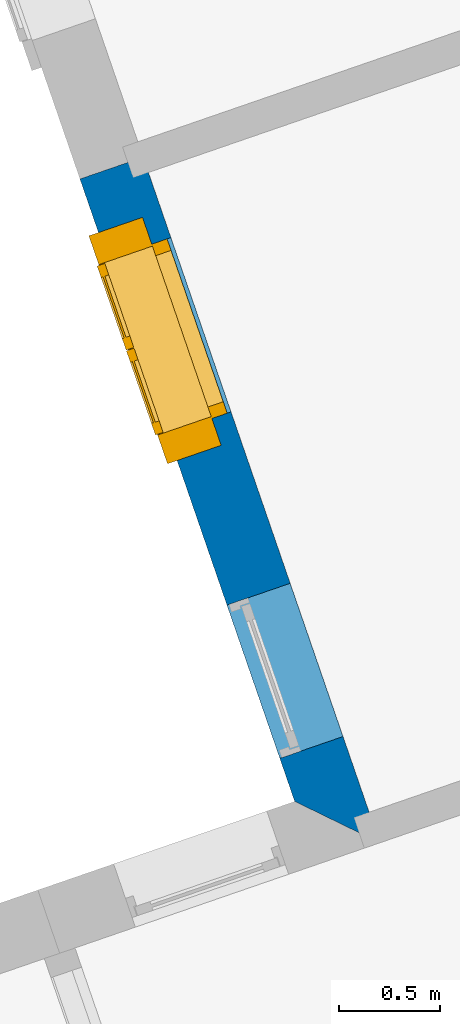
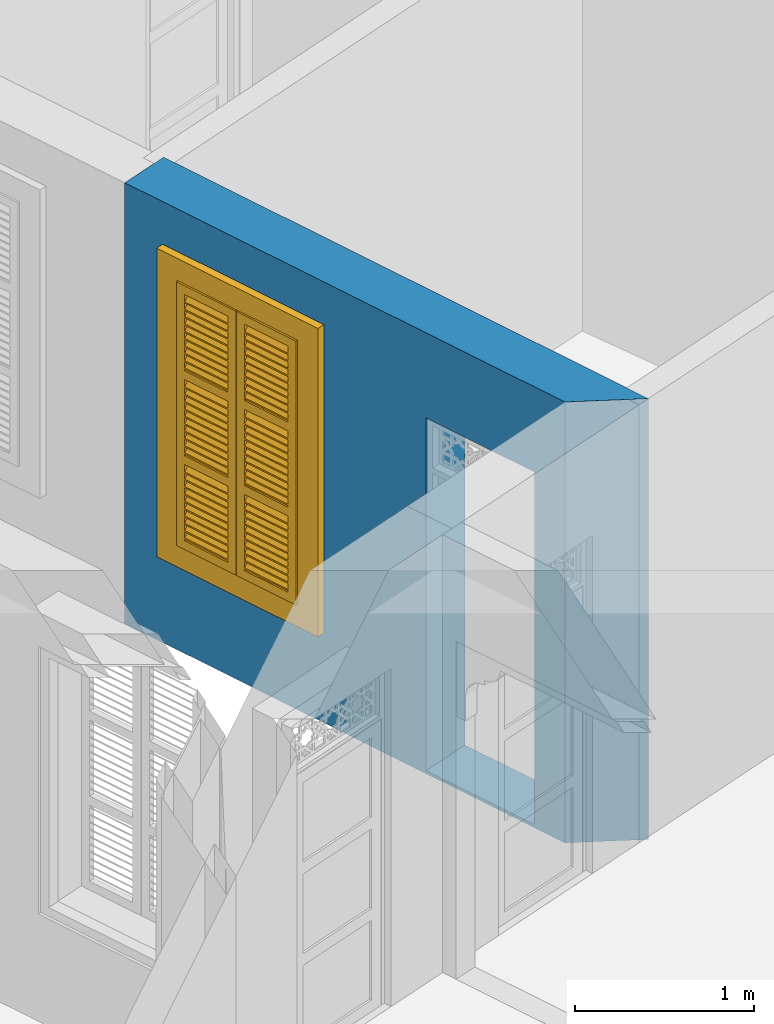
# One storey, part 9 of 16: 1 wall, 1 window, 2 openings.
"""IFC4 building model written with IfcOpenShell, lengths in metres."""

from ifc_helpers import new_model, si_unit, frame, origin, origin_with_axes, place, context, subcontext, project, spatial, polyline, outline, extrude, faceted_brep, source, transform, mapped, material, layer, layer_set, layer_usage, type_object, type_shapes, element, fill, save


model = new_model("IFC4")

# Units and contexts
model_context = context("Model", 3, world=origin_with_axes())
body_context = subcontext(model_context, "Body", "Model", "MODEL_VIEW")
ifc_project = project(units=[si_unit("PLANEANGLEUNIT", "RADIAN"), si_unit("MASSUNIT", "GRAM", prefix="KILO"), si_unit("FORCEUNIT", "NEWTON", prefix="KILO"), si_unit("LENGTHUNIT", "METRE"), si_unit("AREAUNIT", "SQUARE_METRE"), si_unit("VOLUMEUNIT", "CUBIC_METRE")], contexts=[model_context, model_context])

# Site, building, storey
site_placement = place(None, origin_with_axes())
site = spatial("IfcSite", under=ifc_project, at=site_placement, Name="Site plot-8", CompositionType="ELEMENT")
building_placement = place(None, origin_with_axes())
building = spatial("IfcBuilding", under=site, at=building_placement, Name="Building plot-8", CompositionType="ELEMENT")
storey_placement = place(None, origin_with_axes())
storey = spatial("IfcBuildingStorey", under=building, at=storey_placement, Name="plot-8 0", CompositionType="ELEMENT", Elevation=0.0)

# Wall, openings, window
ifc_material = material(Name="Masonry")
ifc_layer = layer(ifc_material, 0.33, ventilated=False)
ifc_layer_set = layer_set([ifc_layer], Name="exterior_0.08_0.25")
ifc_layer_usage = layer_usage(ifc_layer_set, "AXIS2", "POSITIVE", -0.25)
wall_type = type_object("IfcWallType", Name="exterior_0.08_0.25", PredefinedType="SOLIDWALL", material=ifc_layer_set)
wall_placement = place(storey_placement, frame((-7.59485099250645, 19.4551740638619, 0.0), z_axis=(0.0, 0.0, 1.0), x_axis=(0.32611221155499, -0.945331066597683, 0.0)))
wall = element("IfcWall", 1, at=wall_placement, inside=storey, type_object=wall_type, material=ifc_layer_usage, Name="exterior", context=body_context, shape_type="SweptSolid", body=[
    extrude(outline(polyline([(2.18061407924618e-16, 0.0799999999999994), (2.61861100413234e-15, -0.25), (3.24982733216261, -0.25), (3.57982733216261, 0.0800000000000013), (2.18061407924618e-16, 0.0799999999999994)])), origin_with_axes(), (0.0, 0.0, 1.0), 3.0),
])
opening_1_placement = place(wall_placement, frame((0.41995683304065, 0.0, 0.75)))
opening_1 = element("IfcOpeningElement", 2, at=opening_1_placement, cuts=wall, Name="My Opening", ObjectType="Opening", context=body_context, shape_type="SweptSolid", body=[
    extrude(outline(polyline([(0.0, -0.27), (0.909999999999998, -0.269999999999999), (0.910000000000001, 1.1), (3.49720252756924e-15, 1.1), (0.0, -0.27)])), origin_with_axes(), (0.0, 0.0, 1.0), 1.82),
])
opening_2_placement = place(wall_placement, frame((2.22487049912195, 0.0, 0.02)))
element("IfcOpeningElement", 3, at=opening_2_placement, cuts=wall, Name="My Opening", ObjectType="Opening", context=body_context, shape_type="SweptSolid", body=[
    extrude(outline(polyline([(0.0, -0.27), (0.8, -0.27), (0.800000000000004, 1.1), (3.5527136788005e-15, 1.1), (0.0, -0.27)])), origin_with_axes(), (0.0, 0.0, 1.0), 2.4),
])
window_type = type_object("IfcWindowType", Name="shuttered_big", PartitioningType="DOUBLE_PANEL_HORIZONTAL", PredefinedType="NOTDEFINED")
shared_shape = source(origin(), body_context, "Body", "Brep", [
    faceted_brep([(0.074, 0.0, 0.810667), (0.393, 0.0, 0.810667), (0.393, 0.0, 0.800667), (0.074, 0.0, 0.800667), (0.074, -0.04, 0.770667), (0.393, -0.04, 0.770667), (0.393, -0.04, 0.760667), (0.074, -0.04, 0.760667), (0.517, 0.0, 0.232), (0.836, 0.0, 0.232), (0.836, 0.0, 0.222), (0.517, 0.0, 0.222), (0.517, -0.04, 0.192), (0.836, -0.04, 0.192), (0.836, -0.04, 0.182), (0.517, -0.04, 0.182), (0.517, 0.0, 0.532), (0.836, 0.0, 0.532), (0.836, 0.0, 0.522), (0.517, 0.0, 0.522), (0.517, -0.04, 0.492), (0.836, -0.04, 0.492), (0.836, -0.04, 0.482), (0.517, -0.04, 0.482), (0.517, 0.0, 0.482), (0.836, 0.0, 0.482), (0.836, 0.0, 0.472), (0.517, 0.0, 0.472), (0.517, -0.04, 0.442), (0.836, -0.04, 0.442), (0.836, -0.04, 0.432), (0.517, -0.04, 0.432), (0.517, 0.0, 0.582), (0.836, 0.0, 0.582), (0.836, 0.0, 0.572), (0.517, 0.0, 0.572), (0.517, -0.04, 0.542), (0.836, -0.04, 0.542), (0.836, -0.04, 0.532), (0.517, -0.04, 0.532), (0.517, 0.0, 0.182), (0.836, 0.0, 0.182), (0.836, 0.0, 0.172), (0.517, 0.0, 0.172), (0.517, -0.04, 0.142), (0.836, -0.04, 0.142), (0.836, -0.04, 0.132), (0.517, -0.04, 0.132), (0.517, 0.0, 0.382), (0.836, 0.0, 0.382), (0.836, 0.0, 0.372), (0.517, 0.0, 0.372), (0.517, -0.04, 0.342), (0.836, -0.04, 0.342), (0.836, -0.04, 0.332), (0.517, -0.04, 0.332), (0.517, 0.0, 0.432), (0.836, 0.0, 0.432), (0.836, 0.0, 0.422), (0.517, 0.0, 0.422), (0.517, -0.04, 0.392), (0.836, -0.04, 0.392), (0.836, -0.04, 0.382), (0.517, -0.04, 0.382), (0.517, 0.0, 0.132), (0.836, 0.0, 0.132), (0.836, 0.0, 0.122), (0.517, 0.0, 0.122), (0.517, -0.04, 0.092), (0.836, -0.04, 0.092), (0.836, -0.04, 0.082), (0.517, -0.04, 0.082), (0.517, 0.0, 0.282), (0.836, 0.0, 0.282), (0.836, 0.0, 0.272), (0.517, 0.0, 0.272), (0.517, -0.04, 0.242), (0.836, -0.04, 0.242), (0.836, -0.04, 0.232), (0.517, -0.04, 0.232), (0.517, 0.0, 0.332), (0.836, 0.0, 0.332), (0.836, 0.0, 0.322), (0.517, 0.0, 0.322), (0.517, -0.04, 0.292), (0.836, -0.04, 0.292), (0.836, -0.04, 0.282), (0.517, -0.04, 0.282), (0.517, 0.0, 0.810667), (0.836, 0.0, 0.810667), (0.836, 0.0, 0.800667), (0.517, 0.0, 0.800667), (0.517, -0.04, 0.770667), (0.836, -0.04, 0.770667), (0.836, -0.04, 0.760667), (0.517, -0.04, 0.760667), (0.517, 0.0, 1.110667), (0.836, 0.0, 1.110667), (0.836, 0.0, 1.100667), (0.517, 0.0, 1.100667), (0.517, -0.04, 1.070667), (0.836, -0.04, 1.070667), (0.836, -0.04, 1.060667), (0.517, -0.04, 1.060667), (0.517, 0.0, 1.060667), (0.836, 0.0, 1.060667), (0.836, 0.0, 1.050667), (0.517, 0.0, 1.050667), (0.517, -0.04, 1.020667), (0.836, -0.04, 1.020667), (0.836, -0.04, 1.010667), (0.517, -0.04, 1.010667), (0.517, 0.0, 1.160667), (0.836, 0.0, 1.160667), (0.836, 0.0, 1.150667), (0.517, 0.0, 1.150667), (0.517, -0.04, 1.120667), (0.836, -0.04, 1.120667), (0.836, -0.04, 1.110667), (0.517, -0.04, 1.110667), (0.517, 0.0, 0.760667), (0.836, 0.0, 0.760667), (0.836, 0.0, 0.750667), (0.517, 0.0, 0.750667), (0.517, -0.04, 0.720667), (0.836, -0.04, 0.720667), (0.836, -0.04, 0.710667), (0.517, -0.04, 0.710667), (0.517, 0.0, 0.960667), (0.836, 0.0, 0.960667), (0.836, 0.0, 0.950667), (0.517, 0.0, 0.950667), (0.517, -0.04, 0.920667), (0.836, -0.04, 0.920667), (0.836, -0.04, 0.910667), (0.517, -0.04, 0.910667), (0.517, 0.0, 1.010667), (0.836, 0.0, 1.010667), (0.836, 0.0, 1.0), (0.517, 0.0, 1.0), (0.517, -0.04, 0.970667), (0.836, -0.04, 0.970667), (0.836, -0.04, 0.960667), (0.517, -0.04, 0.960667), (0.517, 0.0, 0.710667), (0.836, 0.0, 0.710667), (0.836, 0.0, 0.700667), (0.517, 0.0, 0.700667), (0.517, -0.04, 0.670667), (0.836, -0.04, 0.670667), (0.836, -0.04, 0.660667), (0.517, -0.04, 0.660667), (0.517, 0.0, 0.860667), (0.836, 0.0, 0.860667), (0.836, 0.0, 0.850667), (0.517, 0.0, 0.850667), (0.517, -0.04, 0.820667), (0.836, -0.04, 0.820667), (0.836, -0.04, 0.810667), (0.517, -0.04, 0.810667), (0.517, 0.0, 0.910667), (0.836, 0.0, 0.910667), (0.836, 0.0, 0.900667), (0.517, 0.0, 0.900667), (0.517, -0.04, 0.870667), (0.836, -0.04, 0.870667), (0.836, -0.04, 0.860667), (0.517, -0.04, 0.860667), (0.517, 0.0, 1.389333), (0.836, 0.0, 1.389333), (0.836, 0.0, 1.379333), (0.517, 0.0, 1.379333), (0.517, -0.04, 1.349333), (0.836, -0.04, 1.349333), (0.836, -0.04, 1.339333), (0.517, -0.04, 1.339333), (0.517, 0.0, 1.689333), (0.836, 0.0, 1.689333), (0.836, 0.0, 1.679333), (0.517, 0.0, 1.679333), (0.517, -0.04, 1.649333), (0.836, -0.04, 1.649333), (0.836, -0.04, 1.639333), (0.517, -0.04, 1.639333), (0.517, 0.0, 1.639333), (0.836, 0.0, 1.639333), (0.836, 0.0, 1.629333), (0.517, 0.0, 1.629333), (0.517, -0.04, 1.599333), (0.836, -0.04, 1.599333), (0.836, -0.04, 1.589333), (0.517, -0.04, 1.589333), (0.517, 0.0, 1.739333), (0.836, 0.0, 1.739333), (0.836, 0.0, 1.729333), (0.517, 0.0, 1.729333), (0.517, -0.04, 1.699333), (0.836, -0.04, 1.699333), (0.836, -0.04, 1.689333), (0.517, -0.04, 1.689333), (0.517, 0.0, 1.339333), (0.836, 0.0, 1.339333), (0.836, 0.0, 1.329333), (0.517, 0.0, 1.329333), (0.517, -0.04, 1.299333), (0.836, -0.04, 1.299333), (0.836, -0.04, 1.289333), (0.517, -0.04, 1.289333), (0.517, 0.0, 1.539333), (0.836, 0.0, 1.539333), (0.836, 0.0, 1.529333), (0.517, 0.0, 1.529333), (0.517, -0.04, 1.499333), (0.836, -0.04, 1.499333), (0.836, -0.04, 1.489333), (0.517, -0.04, 1.489333), (0.517, 0.0, 1.589333), (0.836, 0.0, 1.589333), (0.836, 0.0, 1.579333), (0.517, 0.0, 1.579333), (0.517, -0.04, 1.549333), (0.836, -0.04, 1.549333), (0.836, -0.04, 1.539333), (0.517, -0.04, 1.539333), (0.517, 0.0, 1.289333), (0.836, 0.0, 1.289333), (0.836, 0.0, 1.279333), (0.517, 0.0, 1.279333), (0.517, -0.04, 1.249333), (0.836, -0.04, 1.249333), (0.836, -0.04, 1.239333), (0.517, -0.04, 1.239333), (0.517, 0.0, 1.439333), (0.836, 0.0, 1.439333), (0.836, 0.0, 1.429333), (0.517, 0.0, 1.429333), (0.517, -0.04, 1.399333), (0.836, -0.04, 1.399333), (0.836, -0.04, 1.389333), (0.517, -0.04, 1.389333), (0.517, 0.0, 1.489333), (0.836, 0.0, 1.489333), (0.836, 0.0, 1.479333), (0.517, 0.0, 1.479333), (0.517, -0.04, 1.449333), (0.836, -0.04, 1.449333), (0.836, -0.04, 1.439333), (0.517, -0.04, 1.439333), (0.074, 0.0, 0.232), (0.393, 0.0, 0.232), (0.393, 0.0, 0.222), (0.074, 0.0, 0.222), (0.074, -0.04, 0.192), (0.393, -0.04, 0.192), (0.393, -0.04, 0.182), (0.074, -0.04, 0.182), (0.074, 0.0, 0.532), (0.393, 0.0, 0.532), (0.393, 0.0, 0.522), (0.074, 0.0, 0.522), (0.074, -0.04, 0.492), (0.393, -0.04, 0.492), (0.393, -0.04, 0.482), (0.074, -0.04, 0.482), (0.074, 0.0, 0.482), (0.393, 0.0, 0.482), (0.393, 0.0, 0.472), (0.074, 0.0, 0.472), (0.074, -0.04, 0.442), (0.393, -0.04, 0.442), (0.393, -0.04, 0.432), (0.074, -0.04, 0.432), (0.074, 0.0, 0.582), (0.393, 0.0, 0.582), (0.393, 0.0, 0.572), (0.074, 0.0, 0.572), (0.074, -0.04, 0.542), (0.393, -0.04, 0.542), (0.393, -0.04, 0.532), (0.074, -0.04, 0.532), (0.074, 0.0, 0.182), (0.393, 0.0, 0.182), (0.393, 0.0, 0.172), (0.074, 0.0, 0.172), (0.074, -0.04, 0.142), (0.393, -0.04, 0.142), (0.393, -0.04, 0.132), (0.074, -0.04, 0.132), (0.074, 0.0, 0.382), (0.393, 0.0, 0.382), (0.393, 0.0, 0.372), (0.074, 0.0, 0.372), (0.074, -0.04, 0.342), (0.393, -0.04, 0.342), (0.393, -0.04, 0.332), (0.074, -0.04, 0.332), (0.074, 0.0, 0.432), (0.393, 0.0, 0.432), (0.393, 0.0, 0.422), (0.074, 0.0, 0.422), (0.074, -0.04, 0.392), (0.393, -0.04, 0.392), (0.393, -0.04, 0.382), (0.074, -0.04, 0.382), (0.074, 0.0, 0.132), (0.393, 0.0, 0.132), (0.393, 0.0, 0.122), (0.074, 0.0, 0.122), (0.074, -0.04, 0.092), (0.393, -0.04, 0.092), (0.393, -0.04, 0.082), (0.074, -0.04, 0.082), (0.074, 0.0, 0.282), (0.393, 0.0, 0.282), (0.393, 0.0, 0.272), (0.074, 0.0, 0.272), (0.074, -0.04, 0.242), (0.393, -0.04, 0.242), (0.393, -0.04, 0.232), (0.074, -0.04, 0.232), (0.074, 0.0, 0.332), (0.393, 0.0, 0.332), (0.393, 0.0, 0.322), (0.074, 0.0, 0.322), (0.074, -0.04, 0.292), (0.393, -0.04, 0.292), (0.393, -0.04, 0.282), (0.074, -0.04, 0.282), (0.074, 0.0, 1.110667), (0.393, 0.0, 1.110667), (0.393, 0.0, 1.100667), (0.074, 0.0, 1.100667), (0.074, -0.04, 1.070667), (0.393, -0.04, 1.070667), (0.393, -0.04, 1.060667), (0.074, -0.04, 1.060667), (0.074, 0.0, 1.060667), (0.393, 0.0, 1.060667), (0.393, 0.0, 1.050667), (0.074, 0.0, 1.050667), (0.074, -0.04, 1.020667), (0.393, -0.04, 1.020667), (0.393, -0.04, 1.010667), (0.074, -0.04, 1.010667), (0.074, 0.0, 1.160667), (0.393, 0.0, 1.160667), (0.393, 0.0, 1.150667), (0.074, 0.0, 1.150667), (0.074, -0.04, 1.120667), (0.393, -0.04, 1.120667), (0.393, -0.04, 1.110667), (0.074, -0.04, 1.110667), (0.074, 0.0, 0.760667), (0.393, 0.0, 0.760667), (0.393, 0.0, 0.750667), (0.074, 0.0, 0.750667), (0.074, -0.04, 0.720667), (0.393, -0.04, 0.720667), (0.393, -0.04, 0.710667), (0.074, -0.04, 0.710667), (0.074, 0.0, 0.960667), (0.393, 0.0, 0.960667), (0.393, 0.0, 0.950667), (0.074, 0.0, 0.950667), (0.074, -0.04, 0.920667), (0.393, -0.04, 0.920667), (0.393, -0.04, 0.910667), (0.074, -0.04, 0.910667), (0.074, 0.0, 1.010667), (0.393, 0.0, 1.010667), (0.393, 0.0, 1.0), (0.074, 0.0, 1.0), (0.074, -0.04, 0.970667), (0.393, -0.04, 0.970667), (0.393, -0.04, 0.960667), (0.074, -0.04, 0.960667), (0.074, 0.0, 0.710667), (0.393, 0.0, 0.710667), (0.393, 0.0, 0.700667), (0.074, 0.0, 0.700667), (0.074, -0.04, 0.670667), (0.393, -0.04, 0.670667), (0.393, -0.04, 0.660667), (0.074, -0.04, 0.660667), (0.074, 0.0, 0.860667), (0.393, 0.0, 0.860667), (0.393, 0.0, 0.850667), (0.074, 0.0, 0.850667), (0.074, -0.04, 0.820667), (0.393, -0.04, 0.820667), (0.393, -0.04, 0.810667), (0.074, -0.04, 0.810667), (0.074, 0.0, 0.910667), (0.393, 0.0, 0.910667), (0.393, 0.0, 0.900667), (0.074, 0.0, 0.900667), (0.074, -0.04, 0.870667), (0.393, -0.04, 0.870667), (0.393, -0.04, 0.860667), (0.074, -0.04, 0.860667), (0.074, 0.0, 1.389333), (0.393, 0.0, 1.389333), (0.393, 0.0, 1.379333), (0.074, 0.0, 1.379333), (0.074, -0.04, 1.349333), (0.393, -0.04, 1.349333), (0.393, -0.04, 1.339333), (0.074, -0.04, 1.339333), (0.074, 0.0, 1.689333), (0.393, 0.0, 1.689333), (0.393, 0.0, 1.679333), (0.074, 0.0, 1.679333), (0.074, -0.04, 1.649333), (0.393, -0.04, 1.649333), (0.393, -0.04, 1.639333), (0.074, -0.04, 1.639333), (0.074, 0.0, 1.639333), (0.393, 0.0, 1.639333), (0.393, 0.0, 1.629333), (0.074, 0.0, 1.629333), (0.074, -0.04, 1.599333), (0.393, -0.04, 1.599333), (0.393, -0.04, 1.589333), (0.074, -0.04, 1.589333), (0.074, 0.0, 1.739333), (0.393, 0.0, 1.739333), (0.393, 0.0, 1.729333), (0.074, 0.0, 1.729333), (0.074, -0.04, 1.699333), (0.393, -0.04, 1.699333), (0.393, -0.04, 1.689333), (0.074, -0.04, 1.689333), (0.074, 0.0, 1.339333), (0.393, 0.0, 1.339333), (0.393, 0.0, 1.329333), (0.074, 0.0, 1.329333), (0.074, -0.04, 1.299333), (0.393, -0.04, 1.299333), (0.393, -0.04, 1.289333), (0.074, -0.04, 1.289333), (0.074, 0.0, 1.539333), (0.393, 0.0, 1.539333), (0.393, 0.0, 1.529333), (0.074, 0.0, 1.529333), (0.074, -0.04, 1.499333), (0.393, -0.04, 1.499333), (0.393, -0.04, 1.489333), (0.074, -0.04, 1.489333), (0.074, 0.0, 1.589333), (0.393, 0.0, 1.589333), (0.393, 0.0, 1.579333), (0.074, 0.0, 1.579333), (0.074, -0.04, 1.549333), (0.393, -0.04, 1.549333), (0.393, -0.04, 1.539333), (0.074, -0.04, 1.539333), (0.074, 0.0, 1.289333), (0.393, 0.0, 1.289333), (0.393, 0.0, 1.279333), (0.074, 0.0, 1.279333), (0.074, -0.04, 1.249333), (0.393, -0.04, 1.249333), (0.393, -0.04, 1.239333), (0.074, -0.04, 1.239333), (0.074, 0.0, 1.439333), (0.393, 0.0, 1.439333), (0.393, 0.0, 1.429333), (0.074, 0.0, 1.429333), (0.074, -0.04, 1.399333), (0.393, -0.04, 1.399333), (0.393, -0.04, 1.389333), (0.074, -0.04, 1.389333), (0.074, 0.0, 1.489333), (0.393, 0.0, 1.489333), (0.393, 0.0, 1.479333), (0.074, 0.0, 1.479333), (0.074, -0.04, 1.449333), (0.393, -0.04, 1.449333), (0.393, -0.04, 1.439333), (0.074, -0.04, 1.439333), (0.517, -0.04, 0.072), (0.457, -0.04, 0.012), (0.896, -0.04, 0.012), (0.836, -0.04, 0.072), (0.457, -0.04, 0.590667), (0.517, -0.04, 0.590667), (0.457, 0.0, 0.012), (0.896, 0.0, 0.012), (0.836, -0.04, 0.590667), (0.896, -0.04, 0.590667), (0.836, 0.0, 0.072), (0.517, 0.0, 0.072), (0.457, 0.0, 0.590667), (0.517, 0.0, 0.590667), (0.517, -0.04, 0.650667), (0.457, -0.04, 0.650667), (0.896, 0.0, 0.590667), (0.836, 0.0, 0.590667), (0.836, -0.04, 0.650667), (0.896, -0.04, 0.650667), (0.457, 0.0, 0.650667), (0.457, -0.04, 1.169333), (0.517, -0.04, 1.169333), (0.896, 0.0, 0.650667), (0.836, -0.04, 1.169333), (0.896, -0.04, 1.169333), (0.457, 0.0, 1.169333), (0.517, 0.0, 0.650667), (0.836, 0.0, 0.650667), (0.517, 0.0, 1.169333), (0.517, -0.04, 1.229333), (0.457, -0.04, 1.229333), (0.896, 0.0, 1.169333), (0.836, 0.0, 1.169333), (0.836, -0.04, 1.229333), (0.896, -0.04, 1.229333), (0.457, 0.0, 1.229333), (0.517, -0.04, 1.748), (0.457, -0.04, 1.808), (0.896, 0.0, 1.229333), (0.896, -0.04, 1.808), (0.836, -0.04, 1.748), (0.457, 0.0, 1.808), (0.517, 0.0, 1.229333), (0.836, 0.0, 1.229333), (0.517, 0.0, 1.748), (0.896, 0.0, 1.808), (0.836, 0.0, 1.748), (0.074, -0.04, 0.072), (0.014, -0.04, 0.012), (0.453, -0.04, 0.012), (0.393, -0.04, 0.072), (0.014, -0.04, 0.590667), (0.074, -0.04, 0.590667), (0.014, 0.0, 0.012), (0.453, 0.0, 0.012), (0.393, -0.04, 0.590667), (0.453, -0.04, 0.590667), (0.393, 0.0, 0.072), (0.074, 0.0, 0.072), (0.014, 0.0, 0.590667), (0.074, 0.0, 0.590667), (0.074, -0.04, 0.650667), (0.014, -0.04, 0.650667), (0.453, 0.0, 0.590667), (0.393, 0.0, 0.590667), (0.393, -0.04, 0.650667), (0.453, -0.04, 0.650667), (0.014, 0.0, 0.650667), (0.014, -0.04, 1.169333), (0.074, -0.04, 1.169333), (0.453, 0.0, 0.650667), (0.393, -0.04, 1.169333), (0.453, -0.04, 1.169333), (0.014, 0.0, 1.169333), (0.074, 0.0, 0.650667), (0.393, 0.0, 0.650667), (0.074, 0.0, 1.169333), (0.074, -0.04, 1.229333), (0.014, -0.04, 1.229333), (0.453, 0.0, 1.169333), (0.393, 0.0, 1.169333), (0.393, -0.04, 1.229333), (0.453, -0.04, 1.229333), (0.014, 0.0, 1.229333), (0.074, -0.04, 1.748), (0.014, -0.04, 1.808), (0.453, 0.0, 1.229333), (0.453, -0.04, 1.808), (0.393, -0.04, 1.748), (0.014, 0.0, 1.808), (0.074, 0.0, 1.229333), (0.393, 0.0, 1.229333), (0.074, 0.0, 1.748), (0.453, 0.0, 1.808), (0.393, 0.0, 1.748), (0.0, 0.33, 1.82), (0.91, 0.33, 1.82), (0.85, 0.33, 1.76), (0.06, 0.33, 1.76), (1.05, -0.03, 1.96), (1.05, 0.25, 1.96), (-0.14, 0.25, 1.96), (-0.14, -0.03, 1.96), (0.0, 0.25, 1.82), (0.91, 0.25, 1.82), (0.9, 0.25, 1.81), (0.01, 0.25, 1.81), (0.85, 0.33, 0.06), (0.91, 0.33, 0.0), (0.85, 0.25, 1.76), (0.06, 0.25, 1.76), (0.0, 0.33, 0.0), (0.06, 0.33, 0.06), (0.0, 0.25, 0.0), (0.910046, 0.25, 1.82), (0.91, 0.25, 0.0), (0.85, 0.25, 0.06), (0.06, 0.25, 0.06), (0.9, 0.25, 0.01), (0.9, -0.03, 0.01), (0.9, -0.03, 1.81), (0.01, -0.03, 0.01), (-0.14, -0.03, -0.14), (1.05, -0.03, -0.14), (0.01, -0.03, 1.81), (0.01, 0.25, 0.01), (1.05, 0.25, -0.14), (-0.14, 0.25, -0.14)], [[[0, 1, 2, 3]], [[1, 0, 4, 5]], [[2, 1, 5, 6]], [[6, 7, 3, 2]], [[7, 4, 0, 3]], [[5, 4, 7, 6]], [[8, 9, 10, 11]], [[12, 13, 9, 8]], [[13, 14, 10, 9]], [[14, 15, 11, 10]], [[15, 12, 8, 11]], [[13, 12, 15, 14]], [[16, 17, 18, 19]], [[20, 21, 17, 16]], [[21, 22, 18, 17]], [[22, 23, 19, 18]], [[23, 20, 16, 19]], [[21, 20, 23, 22]], [[24, 25, 26, 27]], [[28, 29, 25, 24]], [[29, 30, 26, 25]], [[30, 31, 27, 26]], [[31, 28, 24, 27]], [[29, 28, 31, 30]], [[32, 33, 34, 35]], [[36, 37, 33, 32]], [[37, 38, 34, 33]], [[38, 39, 35, 34]], [[39, 36, 32, 35]], [[37, 36, 39, 38]], [[40, 41, 42, 43]], [[44, 45, 41, 40]], [[45, 46, 42, 41]], [[46, 47, 43, 42]], [[47, 44, 40, 43]], [[45, 44, 47, 46]], [[48, 49, 50, 51]], [[52, 53, 49, 48]], [[53, 54, 50, 49]], [[54, 55, 51, 50]], [[55, 52, 48, 51]], [[53, 52, 55, 54]], [[56, 57, 58, 59]], [[60, 61, 57, 56]], [[61, 62, 58, 57]], [[62, 63, 59, 58]], [[63, 60, 56, 59]], [[61, 60, 63, 62]], [[64, 65, 66, 67]], [[68, 69, 65, 64]], [[69, 70, 66, 65]], [[70, 71, 67, 66]], [[71, 68, 64, 67]], [[69, 68, 71, 70]], [[72, 73, 74, 75]], [[76, 77, 73, 72]], [[77, 78, 74, 73]], [[78, 79, 75, 74]], [[79, 76, 72, 75]], [[77, 76, 79, 78]], [[80, 81, 82, 83]], [[84, 85, 81, 80]], [[85, 86, 82, 81]], [[86, 87, 83, 82]], [[87, 84, 80, 83]], [[85, 84, 87, 86]], [[88, 89, 90, 91]], [[92, 93, 89, 88]], [[93, 94, 90, 89]], [[94, 95, 91, 90]], [[95, 92, 88, 91]], [[93, 92, 95, 94]], [[96, 97, 98, 99]], [[100, 101, 97, 96]], [[101, 102, 98, 97]], [[102, 103, 99, 98]], [[103, 100, 96, 99]], [[101, 100, 103, 102]], [[104, 105, 106, 107]], [[108, 109, 105, 104]], [[109, 110, 106, 105]], [[110, 111, 107, 106]], [[111, 108, 104, 107]], [[109, 108, 111, 110]], [[112, 113, 114, 115]], [[116, 117, 113, 112]], [[117, 118, 114, 113]], [[118, 119, 115, 114]], [[119, 116, 112, 115]], [[117, 116, 119, 118]], [[120, 121, 122, 123]], [[124, 125, 121, 120]], [[125, 126, 122, 121]], [[126, 127, 123, 122]], [[127, 124, 120, 123]], [[125, 124, 127, 126]], [[128, 129, 130, 131]], [[132, 133, 129, 128]], [[133, 134, 130, 129]], [[134, 135, 131, 130]], [[135, 132, 128, 131]], [[133, 132, 135, 134]], [[136, 137, 138, 139]], [[140, 141, 137, 136]], [[141, 142, 138, 137]], [[142, 143, 139, 138]], [[143, 140, 136, 139]], [[141, 140, 143, 142]], [[144, 145, 146, 147]], [[148, 149, 145, 144]], [[149, 150, 146, 145]], [[150, 151, 147, 146]], [[151, 148, 144, 147]], [[149, 148, 151, 150]], [[152, 153, 154, 155]], [[156, 157, 153, 152]], [[157, 158, 154, 153]], [[158, 159, 155, 154]], [[159, 156, 152, 155]], [[157, 156, 159, 158]], [[160, 161, 162, 163]], [[164, 165, 161, 160]], [[165, 166, 162, 161]], [[166, 167, 163, 162]], [[167, 164, 160, 163]], [[165, 164, 167, 166]], [[168, 169, 170, 171]], [[172, 173, 169, 168]], [[173, 174, 170, 169]], [[174, 175, 171, 170]], [[175, 172, 168, 171]], [[173, 172, 175, 174]], [[176, 177, 178, 179]], [[180, 181, 177, 176]], [[181, 182, 178, 177]], [[182, 183, 179, 178]], [[183, 180, 176, 179]], [[181, 180, 183, 182]], [[184, 185, 186, 187]], [[188, 189, 185, 184]], [[189, 190, 186, 185]], [[190, 191, 187, 186]], [[191, 188, 184, 187]], [[189, 188, 191, 190]], [[192, 193, 194, 195]], [[196, 197, 193, 192]], [[197, 198, 194, 193]], [[198, 199, 195, 194]], [[199, 196, 192, 195]], [[197, 196, 199, 198]], [[200, 201, 202, 203]], [[204, 205, 201, 200]], [[205, 206, 202, 201]], [[206, 207, 203, 202]], [[207, 204, 200, 203]], [[205, 204, 207, 206]], [[208, 209, 210, 211]], [[212, 213, 209, 208]], [[213, 214, 210, 209]], [[214, 215, 211, 210]], [[215, 212, 208, 211]], [[213, 212, 215, 214]], [[216, 217, 218, 219]], [[220, 221, 217, 216]], [[221, 222, 218, 217]], [[222, 223, 219, 218]], [[223, 220, 216, 219]], [[221, 220, 223, 222]], [[224, 225, 226, 227]], [[228, 229, 225, 224]], [[229, 230, 226, 225]], [[230, 231, 227, 226]], [[231, 228, 224, 227]], [[229, 228, 231, 230]], [[232, 233, 234, 235]], [[236, 237, 233, 232]], [[237, 238, 234, 233]], [[238, 239, 235, 234]], [[239, 236, 232, 235]], [[237, 236, 239, 238]], [[240, 241, 242, 243]], [[244, 245, 241, 240]], [[245, 246, 242, 241]], [[246, 247, 243, 242]], [[247, 244, 240, 243]], [[245, 244, 247, 246]], [[248, 249, 250, 251]], [[252, 253, 249, 248]], [[253, 254, 250, 249]], [[254, 255, 251, 250]], [[255, 252, 248, 251]], [[253, 252, 255, 254]], [[256, 257, 258, 259]], [[260, 261, 257, 256]], [[261, 262, 258, 257]], [[262, 263, 259, 258]], [[263, 260, 256, 259]], [[261, 260, 263, 262]], [[264, 265, 266, 267]], [[268, 269, 265, 264]], [[269, 270, 266, 265]], [[270, 271, 267, 266]], [[271, 268, 264, 267]], [[269, 268, 271, 270]], [[272, 273, 274, 275]], [[276, 277, 273, 272]], [[277, 278, 274, 273]], [[278, 279, 275, 274]], [[279, 276, 272, 275]], [[277, 276, 279, 278]], [[280, 281, 282, 283]], [[284, 285, 281, 280]], [[285, 286, 282, 281]], [[286, 287, 283, 282]], [[287, 284, 280, 283]], [[285, 284, 287, 286]], [[288, 289, 290, 291]], [[292, 293, 289, 288]], [[293, 294, 290, 289]], [[294, 295, 291, 290]], [[295, 292, 288, 291]], [[293, 292, 295, 294]], [[296, 297, 298, 299]], [[300, 301, 297, 296]], [[301, 302, 298, 297]], [[302, 303, 299, 298]], [[303, 300, 296, 299]], [[301, 300, 303, 302]], [[304, 305, 306, 307]], [[308, 309, 305, 304]], [[309, 310, 306, 305]], [[310, 311, 307, 306]], [[311, 308, 304, 307]], [[309, 308, 311, 310]], [[312, 313, 314, 315]], [[316, 317, 313, 312]], [[317, 318, 314, 313]], [[318, 319, 315, 314]], [[319, 316, 312, 315]], [[317, 316, 319, 318]], [[320, 321, 322, 323]], [[324, 325, 321, 320]], [[325, 326, 322, 321]], [[326, 327, 323, 322]], [[327, 324, 320, 323]], [[325, 324, 327, 326]], [[328, 329, 330, 331]], [[332, 333, 329, 328]], [[333, 334, 330, 329]], [[334, 335, 331, 330]], [[335, 332, 328, 331]], [[333, 332, 335, 334]], [[336, 337, 338, 339]], [[340, 341, 337, 336]], [[341, 342, 338, 337]], [[342, 343, 339, 338]], [[343, 340, 336, 339]], [[341, 340, 343, 342]], [[344, 345, 346, 347]], [[348, 349, 345, 344]], [[349, 350, 346, 345]], [[350, 351, 347, 346]], [[351, 348, 344, 347]], [[349, 348, 351, 350]], [[352, 353, 354, 355]], [[356, 357, 353, 352]], [[357, 358, 354, 353]], [[358, 359, 355, 354]], [[359, 356, 352, 355]], [[357, 356, 359, 358]], [[360, 361, 362, 363]], [[364, 365, 361, 360]], [[365, 366, 362, 361]], [[366, 367, 363, 362]], [[367, 364, 360, 363]], [[366, 365, 364, 367]], [[368, 369, 370, 371]], [[372, 373, 369, 368]], [[373, 374, 370, 369]], [[374, 375, 371, 370]], [[375, 372, 368, 371]], [[373, 372, 375, 374]], [[376, 377, 378, 379]], [[380, 381, 377, 376]], [[381, 382, 378, 377]], [[382, 383, 379, 378]], [[383, 380, 376, 379]], [[381, 380, 383, 382]], [[384, 385, 386, 387]], [[388, 389, 385, 384]], [[389, 390, 386, 385]], [[390, 391, 387, 386]], [[391, 388, 384, 387]], [[389, 388, 391, 390]], [[392, 393, 394, 395]], [[396, 397, 393, 392]], [[397, 398, 394, 393]], [[398, 399, 395, 394]], [[399, 396, 392, 395]], [[397, 396, 399, 398]], [[400, 401, 402, 403]], [[404, 405, 401, 400]], [[405, 406, 402, 401]], [[406, 407, 403, 402]], [[407, 404, 400, 403]], [[405, 404, 407, 406]], [[408, 409, 410, 411]], [[412, 413, 409, 408]], [[413, 414, 410, 409]], [[414, 415, 411, 410]], [[415, 412, 408, 411]], [[414, 413, 412, 415]], [[416, 417, 418, 419]], [[420, 421, 417, 416]], [[421, 422, 418, 417]], [[422, 423, 419, 418]], [[423, 420, 416, 419]], [[421, 420, 423, 422]], [[424, 425, 426, 427]], [[428, 429, 425, 424]], [[429, 430, 426, 425]], [[430, 431, 427, 426]], [[431, 428, 424, 427]], [[429, 428, 431, 430]], [[432, 433, 434, 435]], [[436, 437, 433, 432]], [[437, 438, 434, 433]], [[438, 439, 435, 434]], [[439, 436, 432, 435]], [[437, 436, 439, 438]], [[440, 441, 442, 443]], [[444, 445, 441, 440]], [[445, 446, 442, 441]], [[446, 447, 443, 442]], [[447, 444, 440, 443]], [[445, 444, 447, 446]], [[448, 449, 450, 451]], [[452, 453, 449, 448]], [[453, 454, 450, 449]], [[454, 455, 451, 450]], [[455, 452, 448, 451]], [[453, 452, 455, 454]], [[456, 457, 458, 459]], [[460, 461, 457, 456]], [[461, 462, 458, 457]], [[462, 463, 459, 458]], [[463, 460, 456, 459]], [[461, 460, 463, 462]], [[464, 465, 466, 467]], [[468, 469, 465, 464]], [[469, 470, 466, 465]], [[470, 471, 467, 466]], [[471, 468, 464, 467]], [[469, 468, 471, 470]], [[472, 473, 474, 475]], [[476, 477, 473, 472]], [[477, 478, 474, 473]], [[478, 479, 475, 474]], [[479, 476, 472, 475]], [[477, 476, 479, 478]], [[480, 481, 482, 483]], [[484, 481, 480, 485]], [[486, 487, 482, 481]], [[488, 483, 482, 489]], [[480, 483, 490, 491]], [[486, 481, 484, 492]], [[485, 480, 491, 493]], [[485, 494, 495, 484]], [[486, 491, 490, 487]], [[496, 489, 482, 487]], [[483, 488, 497, 490]], [[498, 488, 489, 499]], [[492, 484, 495, 500]], [[486, 492, 493, 491]], [[488, 485, 493, 497]], [[494, 485, 488, 498]], [[501, 495, 494, 502]], [[490, 497, 496, 487]], [[503, 499, 489, 496]], [[504, 498, 499, 505]], [[500, 495, 501, 506]], [[507, 493, 492, 500]], [[493, 507, 508, 497]], [[494, 498, 508, 507]], [[502, 494, 507, 509]], [[502, 510, 511, 501]], [[497, 508, 503, 496]], [[512, 505, 499, 503]], [[498, 504, 513, 508]], [[514, 504, 505, 515]], [[506, 501, 511, 516]], [[500, 506, 509, 507]], [[504, 502, 509, 513]], [[510, 502, 504, 514]], [[510, 517, 518, 511]], [[508, 513, 512, 503]], [[519, 515, 505, 512]], [[515, 520, 521, 514]], [[516, 511, 518, 522]], [[523, 509, 506, 516]], [[509, 523, 524, 513]], [[510, 514, 524, 523]], [[517, 510, 523, 525]], [[518, 517, 521, 520]], [[513, 524, 519, 512]], [[526, 520, 515, 519]], [[514, 521, 527, 524]], [[522, 518, 520, 526]], [[525, 523, 516, 522]], [[521, 517, 525, 527]], [[526, 519, 524, 527]], [[525, 522, 526, 527]], [[528, 529, 530, 531]], [[532, 529, 528, 533]], [[534, 535, 530, 529]], [[536, 531, 530, 537]], [[528, 531, 538, 539]], [[534, 529, 532, 540]], [[533, 528, 539, 541]], [[533, 542, 543, 532]], [[534, 539, 538, 535]], [[544, 537, 530, 535]], [[531, 536, 545, 538]], [[546, 536, 537, 547]], [[540, 532, 543, 548]], [[534, 540, 541, 539]], [[536, 533, 541, 545]], [[542, 533, 536, 546]], [[549, 543, 542, 550]], [[538, 545, 544, 535]], [[551, 547, 537, 544]], [[552, 546, 547, 553]], [[548, 543, 549, 554]], [[555, 541, 540, 548]], [[541, 555, 556, 545]], [[542, 546, 556, 555]], [[550, 542, 555, 557]], [[550, 558, 559, 549]], [[545, 556, 551, 544]], [[560, 553, 547, 551]], [[546, 552, 561, 556]], [[562, 552, 553, 563]], [[554, 549, 559, 564]], [[548, 554, 557, 555]], [[552, 550, 557, 561]], [[558, 550, 552, 562]], [[558, 565, 566, 559]], [[556, 561, 560, 551]], [[567, 563, 553, 560]], [[563, 568, 569, 562]], [[564, 559, 566, 570]], [[571, 557, 554, 564]], [[557, 571, 572, 561]], [[558, 562, 572, 571]], [[565, 558, 571, 573]], [[566, 565, 569, 568]], [[561, 572, 567, 560]], [[574, 568, 563, 567]], [[562, 569, 575, 572]], [[570, 566, 568, 574]], [[573, 571, 564, 570]], [[569, 565, 573, 575]], [[574, 567, 572, 575]], [[573, 570, 574, 575]], [[576, 577, 578, 579]], [[580, 581, 582, 583]], [[576, 584, 585, 577]], [[582, 581, 586, 587]], [[588, 578, 577, 589]], [[579, 578, 590, 591]], [[592, 576, 579, 593]], [[576, 592, 594, 584]], [[595, 584, 591, 590]], [[596, 585, 595]], [[595, 590, 597]], [[595, 597, 596]], [[589, 577, 585, 596]], [[578, 588, 597, 590]], [[589, 592, 593, 588]], [[593, 579, 591, 598]], [[592, 589, 596, 594]], [[598, 591, 584, 594]], [[594, 596, 597, 598]], [[588, 593, 598, 597]], [[599, 600, 601, 586]], [[602, 603, 604, 600]], [[601, 605, 587, 586]], [[600, 599, 606, 602]], [[607, 604, 603, 608]], [[599, 607, 608, 606]], [[605, 602, 606, 587]], [[602, 605, 583, 603]], [[600, 604, 580, 601]], [[580, 583, 605, 601]], [[606, 608, 582, 587]], [[599, 586, 581, 607]], [[582, 608, 603, 583]], [[580, 604, 607, 581]]]),
])
type_shapes(window_type, [shared_shape])
window_placement = place(storey_placement, frame((-7.71313732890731, 18.9701255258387, 0.75), z_axis=(0.0, 0.0, 1.0), x_axis=(0.296762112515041, -0.860251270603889, 0.0)))
window = element("IfcWindow", 4, at=window_placement, inside=storey, type_object=window_type, Name="bedroom sahn window", OverallHeight=1.82, OverallWidth=0.91, context=body_context, shape_type="MappedRepresentation", body=[
    mapped(shared_shape, transform((0.0, 0.0, 0.0), scale=1.0)),
])
fill(opening_1, window)

save(model, "model.ifc")
